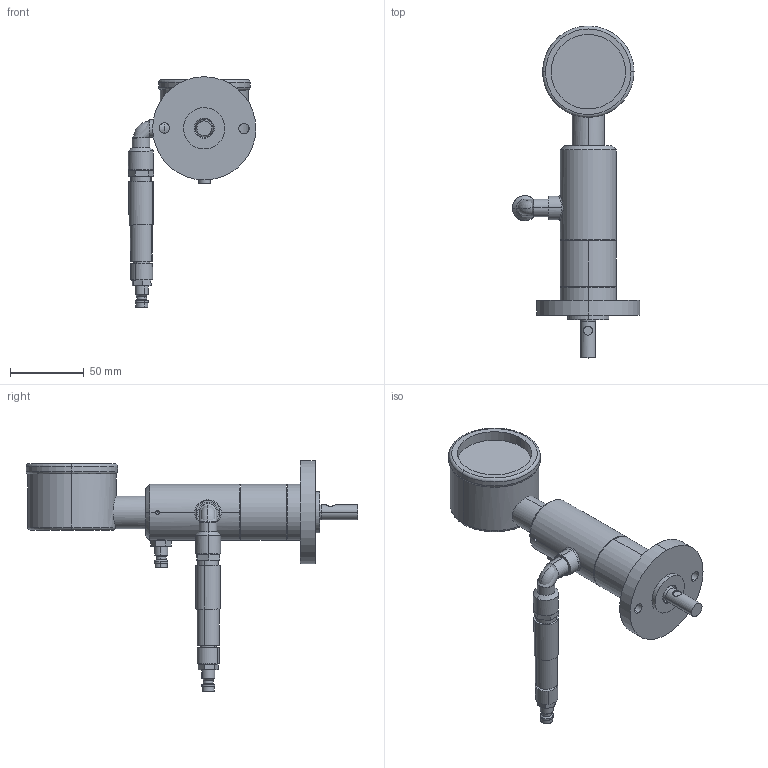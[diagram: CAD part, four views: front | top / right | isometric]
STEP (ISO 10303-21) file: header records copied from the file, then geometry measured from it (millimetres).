
FILE_DESCRIPTION (( 'STEP AP214' ), '1' );
FILE_NAME ('PMR10TGA.STEP', '2019-03-18T09:55:41', ( '' ), ( '' ), 'SwSTEP 2.0', 'SolidWorks 2018', '' );
FILE_SCHEMA (( 'AUTOMOTIVE_DESIGN' ));
Length unit declared in the file: millimetre
Products named in the file (13): Kopie von Rotor PLR 11^PMR10TGA; Kopie von Motorblock PLR 11^PMR10TGA; PMR10TGA; Tacho; Flansch Serie PMR; Rändelschraube GA; Schnellkupplung; Ventil; Rändelschraube; Winkel; Kopie von Distanzring PLR 11^PMR10TGA; Kopie von Deckel PLR 11^PMR10TGA; Kopie von Stator PLR 11^PMR10TGA
Assembly tree (13 placements, depth 3):
  PMR10TGA
    Kopie von Motorblock PLR 11^PMR10TGA
    Kopie von Rotor PLR 11^PMR10TGA
    Kopie von Stator PLR 11^PMR10TGA
    Kopie von Deckel PLR 11^PMR10TGA
    Kopie von Distanzring PLR 11^PMR10TGA
    Winkel
    Rändelschraube GA
      Rändelschraube
      Ventil
      Schnellkupplung
    Schnellkupplung
    Flansch Serie PMR
    Tacho
Bounding box: 86.58 x 225 x 156.33 mm (x, y, z)
Volume: 240871.1 mm3; surface area: 95098.9 mm2
Topology: 12 solids, 12 shells, 297 faces, 621 edges, 390 vertices
Faces by surface type: cylinder 152, plane 93, cone 32, torus 17, bspline 3
Entity records: 8901 total; most frequent: CARTESIAN_POINT 2212, DIRECTION 1390, ORIENTED_EDGE 1098, AXIS2_PLACEMENT_3D 594, EDGE_CURVE 549, VERTEX_POINT 348, EDGE_LOOP 325, CIRCLE 314
